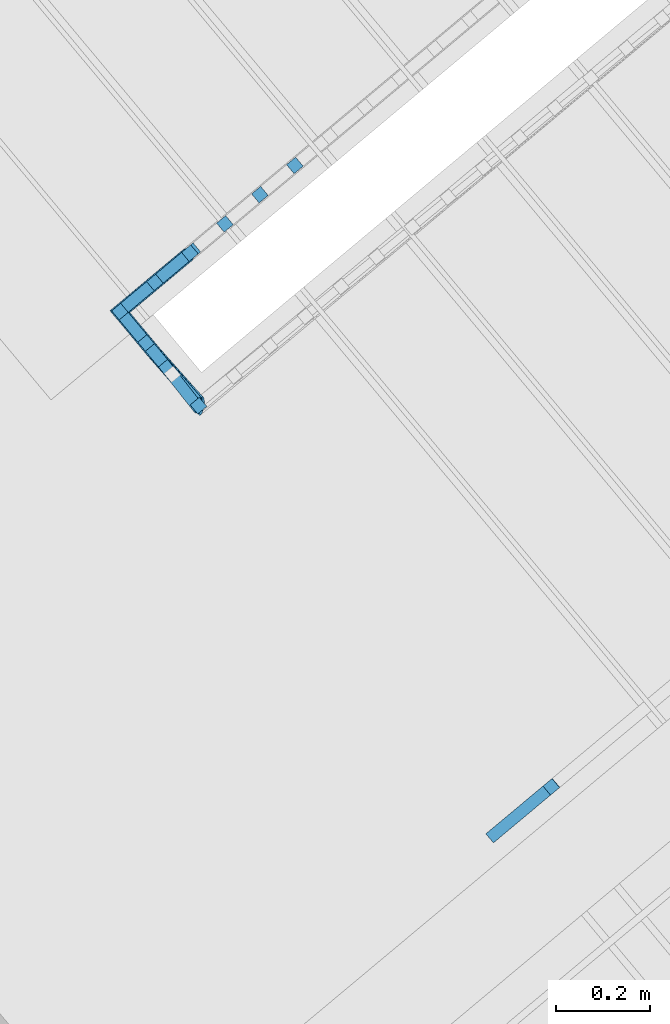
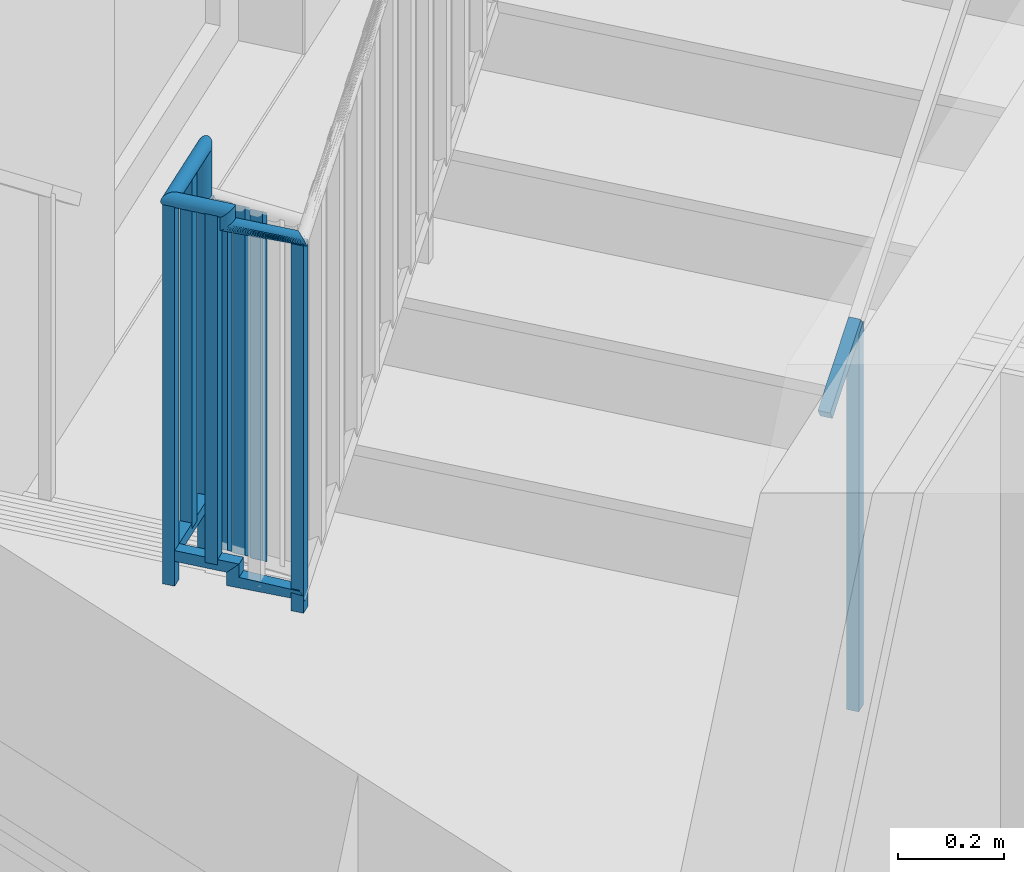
# One storey, part 43 of 58: 16 building element parts, 2 elements without a shape of their own.
"""IFC4 building model written with IfcOpenShell, lengths in metres."""

from ifc_helpers import new_model, entity, si_unit, converted_unit, derived_unit, direction, frame, origin_with_axes, place, context, subcontext, project, spatial, polygons, material, type_object, element, aggregate, save


model = new_model("IFC4")

# Units and contexts
model_context = context("Model", 3, precision=1e-05, world=origin_with_axes(), true_north=direction((0.0, 1.0)))
body_context = subcontext(model_context, "Body", "Model", "MODEL_VIEW")
ifc_project = project(units=[si_unit("LENGTHUNIT", "METRE"), si_unit("AREAUNIT", "SQUARE_METRE"), si_unit("VOLUMEUNIT", "CUBIC_METRE"), converted_unit("PLANEANGLEUNIT", "DEGREE", entity("IfcPlaneAngleMeasure", 0.0174532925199), si_unit("PLANEANGLEUNIT", "RADIAN"), dimensions=[0, 0, 0, 0, 0, 0, 0]), converted_unit("TIMEUNIT", "Year", entity("IfcTimeMeasure", 31556926.0), si_unit("TIMEUNIT", "SECOND"), dimensions=[0, 0, 1, 0, 0, 0, 0]), si_unit("MASSUNIT", "GRAM", prefix="KILO"), si_unit("THERMODYNAMICTEMPERATUREUNIT", "DEGREE_CELSIUS"), si_unit("LUMINOUSINTENSITYUNIT", "LUMEN"), si_unit("ENERGYUNIT", "JOULE", prefix="MEGA"), derived_unit("THERMALCONDUCTANCEUNIT", [(si_unit("POWERUNIT", "WATT"), 1), (si_unit("LENGTHUNIT", "METRE"), -1), (si_unit("THERMODYNAMICTEMPERATUREUNIT", "KELVIN"), -1)]), derived_unit("SPECIFICHEATCAPACITYUNIT", [(si_unit("ENERGYUNIT", "JOULE"), 1), (si_unit("MASSUNIT", "GRAM", prefix="KILO"), -1), (si_unit("THERMODYNAMICTEMPERATUREUNIT", "KELVIN"), -1)]), derived_unit("MASSDENSITYUNIT", [(si_unit("MASSUNIT", "GRAM", prefix="KILO"), 1), (si_unit("VOLUMEUNIT", "CUBIC_METRE"), -1)])], contexts=[model_context])

# Site, building, storey
site_placement = place(None, frame((-0.00153261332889, -0.00661245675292, 0.0), z_axis=(0.0, 0.0, 1.0), x_axis=(1.0, 0.0, 0.0)))
site = spatial("IfcSite", under=ifc_project, at=site_placement, Name="Site", CompositionType="ELEMENT")
building_placement = place(site_placement, origin_with_axes())
building = spatial("IfcBuilding", under=site, at=building_placement, Name="Building", CompositionType="ELEMENT")
storey_placement = place(building_placement, frame((0.0, 0.0, 5.7), z_axis=(0.0, 0.0, 1.0), x_axis=(1.0, 0.0, 0.0)))
storey = spatial("IfcBuildingStorey", under=building, at=storey_placement, Name="DG1", CompositionType="ELEMENT", Elevation=5.7)

# Railing, building element parts
railing_type = type_object("IfcRailingType", Name="Geländerart", PredefinedType="NOTDEFINED")
railing_1_placement = place(storey_placement, frame((-0.398547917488, 23.8355657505, 0.05), z_axis=(0.0, 0.0, 1.0), x_axis=(1.0, 0.0, 0.0)))
railing_1 = element("IfcRailing", 1, at=railing_1_placement, inside=storey, type_object=railing_type, Name="Geländer - 001", PredefinedType="NOTDEFINED")
ifc_material = material(Name="BEKLEIDUNG")
building_element_part_1_placement = place(railing_1_placement, origin_with_axes())
building_element_part_1 = element("IfcBuildingElementPart", 2, at=building_element_part_1_placement, material=ifc_material, Name="BEKLEIDUNG", PredefinedType="NOTDEFINED", context=body_context, shape_type="Tessellation", body=[
    polygons([(-1.83073465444, -1.44815547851, 1.77058823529), (-1.81470539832, -1.46734044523, 1.77058823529), (-1.81470539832, -1.46734044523, 2.65058823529), (-1.83073465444, -1.44815547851, 2.65058823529), (-1.81154968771, -1.43212622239, 1.77058823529), (-1.79552043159, -1.45131118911, 1.77058823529), (-1.79552043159, -1.45131118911, 2.65058823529), (-1.81154968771, -1.43212622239, 2.65058823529)], [[[1, 2, 3, 4]], [[1, 5, 6, 2]], [[2, 6, 7, 3]], [[4, 3, 7, 8]], [[5, 1, 4, 8]], [[6, 5, 8, 7]]], closed=True),
])
building_element_part_2_placement = place(railing_1_placement, origin_with_axes())
building_element_part_2 = element("IfcBuildingElementPart", 3, at=building_element_part_2_placement, material=ifc_material, Name="BEKLEIDUNG", PredefinedType="NOTDEFINED", context=body_context, shape_type="Tessellation", body=[
    polygons([(-1.65806995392, -1.30389217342, 1.7297425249), (-1.67725492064, -1.31992142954, 1.71753377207), (-1.67725492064, -1.31992142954, 1.82808823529), (-1.83073514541, -1.44815588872, 1.82808823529), (-1.83073514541, -1.44815588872, 1.85308823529), (-1.65806995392, -1.30389217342, 1.85308823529), (-1.6420406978, -1.32307714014, 1.7297425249), (-1.66122566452, -1.33910639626, 1.71753377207), (-1.66122566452, -1.33910639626, 1.82808823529), (-1.79551994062, -1.4513107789, 1.82808823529), (-1.79551994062, -1.4513107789, 1.85308823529), (-1.6420406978, -1.32307714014, 1.85308823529)], [[[1, 2, 3, 4, 5, 6]], [[1, 7, 8, 2]], [[2, 8, 9, 3]], [[3, 9, 10, 4]], [[5, 4, 10, 11]], [[12, 6, 5, 11]], [[7, 1, 6, 12]], [[8, 7, 12, 11, 10, 9]]], closed=True),
])
building_element_part_3_placement = place(railing_1_placement, origin_with_axes())
building_element_part_3 = element("IfcBuildingElementPart", 4, at=building_element_part_3_placement, material=ifc_material, Name="BEKLEIDUNG", PredefinedType="NOTDEFINED", context=body_context, shape_type="Tessellation", body=[
    polygons([(-1.66154123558, -1.34262781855, 2.54631289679), (-1.65968848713, -1.34078287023, 2.5475849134), (-1.65968848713, -1.34078287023, 2.65819295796), (-1.66154123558, -1.34262781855, 2.65558823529), (-1.66368620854, -1.34412301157, 2.54504088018), (-1.66605823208, -1.3452230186, 2.54380751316), (-1.66858523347, -1.34589441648, 2.54265027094), (-1.67119043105, -1.34611680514, 2.54160431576), (-1.67379466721, -1.3458834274, 2.54070142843), (-1.67631881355, -1.34520137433, 2.53996904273), (-1.67868617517, -1.34409136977, 2.53942941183), (-1.68082482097, -1.34258714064, 2.53909893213), (-1.68266976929, -1.34073439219, 2.53898764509), (-1.68416496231, -1.33858941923, 2.53909893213), (-1.68526496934, -1.33621739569, 2.53942941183), (-1.68593636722, -1.3336903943, 2.53996904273), (-1.68615875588, -1.33108519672, 2.54070142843), (-1.68592537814, -1.32848096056, 2.54160431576), (-1.68524332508, -1.32595681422, 2.54265027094), (-1.68413332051, -1.3235894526, 2.54380751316), (-1.68262909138, -1.3214508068, 2.54504088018), (-1.68077634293, -1.31960585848, 2.54631289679), (-1.67863136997, -1.31811066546, 2.5475849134), (-1.67625934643, -1.31701065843, 2.54881828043), (-1.67373234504, -1.31633926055, 2.54997552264), (-1.67112714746, -1.31611687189, 2.55102147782), (-1.6685229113, -1.31635024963, 2.55192436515), (-1.66599876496, -1.31703230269, 2.55265675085), (-1.66363140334, -1.31814230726, 2.55319638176), (-1.66149275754, -1.31964653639, 2.55352686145), (-1.65964780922, -1.32149928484, 2.55363814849), (-1.6581526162, -1.3236442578, 2.55352686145), (-1.65705260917, -1.32601628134, 2.55319638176), (-1.65638121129, -1.32854328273, 2.55265675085), (-1.65615882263, -1.33114848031, 2.55192436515), (-1.65639220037, -1.33375271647, 2.55102147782), (-1.65707425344, -1.33627686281, 2.54997552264), (-1.658184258, -1.33864422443, 2.54881828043), (-1.658184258, -1.33864422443, 2.66071853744), (-1.792319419, -1.45159751, 2.65819295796), (-1.79199842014, -1.45162626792, 2.65558823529), (-1.66368620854, -1.34412301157, 2.65298351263), (-1.66605823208, -1.3452230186, 2.65045793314), (-1.66858523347, -1.34589441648, 2.64808823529), (-1.67119043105, -1.34611680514, 2.64594642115), (-1.67379466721, -1.3458834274, 2.64409756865), (-1.67631881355, -1.34520137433, 2.64259785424), (-1.67868617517, -1.34409136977, 2.64149284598), (-1.68082482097, -1.34258714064, 2.640816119), (-1.68266976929, -1.34073439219, 2.64058823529), (-1.68416496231, -1.33858941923, 2.640816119), (-1.68526496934, -1.33621739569, 2.64149284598), (-1.68593636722, -1.3336903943, 2.64259785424), (-1.68615875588, -1.33108519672, 2.64409756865), (-1.68592537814, -1.32848096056, 2.64594642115), (-1.68524332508, -1.32595681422, 2.64808823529), (-1.68413332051, -1.3235894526, 2.65045793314), (-1.68262909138, -1.3214508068, 2.65298351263), (-1.68077634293, -1.31960585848, 2.65558823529), (-1.67863136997, -1.31811066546, 2.65819295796), (-1.67625934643, -1.31701065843, 2.66071853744), (-1.67373234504, -1.31633926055, 2.66308823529), (-1.67112714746, -1.31611687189, 2.66523004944), (-1.6685229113, -1.31635024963, 2.66707890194), (-1.66599876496, -1.31703230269, 2.66857861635), (-1.66363140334, -1.31814230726, 2.66968362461), (-1.66149275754, -1.31964653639, 2.67036035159), (-1.65964780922, -1.32149928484, 2.67058823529), (-1.6581526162, -1.3236442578, 2.67036035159), (-1.65705260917, -1.32601628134, 2.66968362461), (-1.65638121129, -1.32854328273, 2.66857861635), (-1.65615882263, -1.33114848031, 2.66707890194), (-1.65639220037, -1.33375271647, 2.66523004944), (-1.65707425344, -1.33627686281, 2.66308823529), (-1.79327266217, -1.45151211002, 2.66071853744), (-1.79482918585, -1.45137266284, 2.66308823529), (-1.79694169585, -1.45118340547, 2.66523004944), (-1.79954600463, -1.4509500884, 2.66707890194), (-1.80256298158, -1.45067980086, 2.66857861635), (-1.80590095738, -1.45038075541, 2.66968362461), (-1.80945850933, -1.45006203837, 2.67036035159), (-1.81312754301, -1.44973333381, 2.67058823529), (-1.8167965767, -1.44940462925, 2.67036035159), (-1.82035412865, -1.44908591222, 2.66968362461), (-1.82369210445, -1.44878686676, 2.66857861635), (-1.8267090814, -1.44851657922, 2.66707890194), (-1.82931339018, -1.44828326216, 2.66523004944), (-1.83142590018, -1.44809400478, 2.66308823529), (-1.83298242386, -1.4479545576, 2.66071853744), (-1.83393566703, -1.44786915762, 2.65819295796), (-1.83425666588, -1.4478403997, 2.65558823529), (-1.83393566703, -1.44786915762, 2.65298351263), (-1.83298242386, -1.4479545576, 2.65045793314), (-1.83142590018, -1.44809400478, 2.64808823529), (-1.82931339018, -1.44828326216, 2.64594642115), (-1.8267090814, -1.44851657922, 2.64409756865), (-1.82369210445, -1.44878686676, 2.64259785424), (-1.82035412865, -1.44908591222, 2.64149284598), (-1.8167965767, -1.44940462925, 2.640816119), (-1.81312754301, -1.44973333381, 2.64058823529), (-1.80945850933, -1.45006203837, 2.640816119), (-1.80590095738, -1.45038075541, 2.64149284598), (-1.80256298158, -1.45067980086, 2.64259785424), (-1.79954600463, -1.4509500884, 2.64409756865), (-1.79694169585, -1.45118340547, 2.64594642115), (-1.79482918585, -1.45137266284, 2.64808823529), (-1.79327266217, -1.45151211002, 2.65045793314), (-1.792319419, -1.45159751, 2.65298351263)], [[[1, 2, 3, 4]], [[1, 5, 6, 7, 8, 9, 10, 11, 12, 13, 14, 15, 16, 17, 18, 19, 20, 21, 22, 23, 24, 25, 26, 27, 28, 29, 30, 31, 32, 33, 34, 35, 36, 37, 38, 2]], [[2, 38, 39, 3]], [[4, 3, 40, 41]], [[5, 1, 4, 42]], [[6, 5, 42, 43]], [[7, 6, 43, 44]], [[8, 7, 44, 45]], [[9, 8, 45, 46]], [[10, 9, 46, 47]], [[11, 10, 47, 48]], [[12, 11, 48, 49]], [[13, 12, 49, 50]], [[14, 13, 50, 51]], [[15, 14, 51, 52]], [[16, 15, 52, 53]], [[17, 16, 53, 54]], [[18, 17, 54, 55]], [[19, 18, 55, 56]], [[20, 19, 56, 57]], [[21, 20, 57, 58]], [[22, 21, 58, 59]], [[23, 22, 59, 60]], [[24, 23, 60, 61]], [[25, 24, 61, 62]], [[26, 25, 62, 63]], [[27, 26, 63, 64]], [[28, 27, 64, 65]], [[29, 28, 65, 66]], [[30, 29, 66, 67]], [[31, 30, 67, 68]], [[32, 31, 68, 69]], [[33, 32, 69, 70]], [[34, 33, 70, 71]], [[35, 34, 71, 72]], [[36, 35, 72, 73]], [[37, 36, 73, 74]], [[38, 37, 74, 39]], [[3, 39, 75, 40]], [[41, 40, 75, 76, 77, 78, 79, 80, 81, 82, 83, 84, 85, 86, 87, 88, 89, 90, 91, 92, 93, 94, 95, 96, 97, 98, 99, 100, 101, 102, 103, 104, 105, 106, 107, 108]], [[42, 4, 41, 108]], [[43, 42, 108, 107]], [[44, 43, 107, 106]], [[45, 44, 106, 105]], [[46, 45, 105, 104]], [[47, 46, 104, 103]], [[48, 47, 103, 102]], [[49, 48, 102, 101]], [[50, 49, 101, 100]], [[51, 50, 100, 99]], [[52, 51, 99, 98]], [[53, 52, 98, 97]], [[54, 53, 97, 96]], [[55, 54, 96, 95]], [[56, 55, 95, 94]], [[57, 56, 94, 93]], [[58, 57, 93, 92]], [[59, 58, 92, 91]], [[60, 59, 91, 90]], [[61, 60, 90, 89]], [[62, 61, 89, 88]], [[63, 62, 88, 87]], [[64, 63, 87, 86]], [[65, 64, 86, 85]], [[66, 65, 85, 84]], [[67, 66, 84, 83]], [[68, 67, 83, 82]], [[69, 68, 82, 81]], [[70, 69, 81, 80]], [[71, 70, 80, 79]], [[72, 71, 79, 78]], [[73, 72, 78, 77]], [[74, 73, 77, 76]], [[39, 74, 76, 75]]], closed=True),
])
building_element_part_4_placement = place(railing_1_placement, origin_with_axes())
building_element_part_4 = element("IfcBuildingElementPart", 5, at=building_element_part_4_placement, material=ifc_material, Name="BEKLEIDUNG", PredefinedType="NOTDEFINED", context=body_context, shape_type="Tessellation", body=[
    polygons([(-1.64801867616, -1.66682135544, 1.77058823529), (-1.62883452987, -1.65079111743, 1.77058823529), (-1.62883452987, -1.65079111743, 2.61989887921), (-1.64801867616, -1.66682135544, 2.61989887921), (-1.66404891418, -1.64763720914, 1.77058823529), (-1.64486476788, -1.63160697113, 1.77058823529), (-1.64486476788, -1.63160697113, 2.61989887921), (-1.66404891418, -1.64763720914, 2.61989887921)], [[[1, 2, 3, 4]], [[1, 5, 6, 2]], [[2, 6, 7, 3]], [[4, 3, 7, 8]], [[5, 1, 4, 8]], [[6, 5, 8, 7]]], closed=True),
])
building_element_part_5_placement = place(railing_1_placement, origin_with_axes())
building_element_part_5 = element("IfcBuildingElementPart", 6, at=building_element_part_5_placement, material=ifc_material, Name="BEKLEIDUNG", PredefinedType="NOTDEFINED", context=body_context, shape_type="Tessellation", body=[
    polygons([(-1.73136158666, -1.5670809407, 1.85308823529), (-1.74739182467, -1.5478967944, 1.82808823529), (-1.74739182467, -1.5478967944, 1.79739887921), (-1.73136158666, -1.5670809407, 1.82239887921), (-1.71217744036, -1.55105070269, 1.85308823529), (-1.72820767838, -1.53186655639, 1.82808823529), (-1.72820767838, -1.53186655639, 1.79739887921), (-1.64445279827, -1.66621433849, 1.79779595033), (-1.71217744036, -1.55105070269, 1.82239887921), (-1.63893066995, -1.63383411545, 1.79779595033), (-1.6539527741, -1.66459421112, 1.82200180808), (-1.64843064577, -1.63221398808, 1.82200180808)], [[[1, 2, 3, 4]], [[1, 5, 6, 2]], [[2, 6, 7, 3]], [[4, 3, 8]], [[5, 1, 4, 9]], [[6, 5, 9, 7]], [[3, 7, 10]], [[3, 10, 8]], [[4, 8, 11]], [[9, 4, 11]], [[7, 9, 12]], [[7, 12, 10]], [[11, 8, 10, 12]], [[9, 11, 12]]], closed=True),
])
building_element_part_6_placement = place(railing_1_placement, origin_with_axes())
building_element_part_6 = element("IfcBuildingElementPart", 7, at=building_element_part_6_placement, material=ifc_material, Name="BEKLEIDUNG", PredefinedType="NOTDEFINED", context=body_context, shape_type="Tessellation", body=[
    polygons([(-1.72789228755, -1.52834511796, 2.65558823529), (-1.72639698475, -1.53049001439, 2.65819295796), (-1.72639698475, -1.53049001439, 2.62750360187), (-1.72789228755, -1.52834511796, 2.62489887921), (-1.72973733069, -1.52649246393, 2.65298351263), (-1.73187605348, -1.52498834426, 2.65045793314), (-1.7342434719, -1.52387846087, 2.64808823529), (-1.73676765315, -1.52319653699, 2.64594642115), (-1.73937190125, -1.52296329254, 2.64409756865), (-1.74197708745, -1.52318581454, 2.64259785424), (-1.74450405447, -1.52385734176, 2.64149284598), (-1.74687602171, -1.52495747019, 2.640816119), (-1.74902091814, -1.52645277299, 2.64058823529), (-1.75087357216, -1.52829781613, 2.640816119), (-1.75237769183, -1.53043653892, 2.64149284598), (-1.75348757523, -1.53280395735, 2.64259785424), (-1.7541694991, -1.53532813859, 2.64409756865), (-1.75440274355, -1.53793238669, 2.64594642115), (-1.75418022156, -1.54053757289, 2.64808823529), (-1.75350869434, -1.54306453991, 2.65045793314), (-1.7524085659, -1.54543650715, 2.65298351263), (-1.75091326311, -1.54758140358, 2.65558823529), (-1.74906821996, -1.5494340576, 2.65819295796), (-1.74692949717, -1.55093817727, 2.66071853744), (-1.74456207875, -1.55204806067, 2.66308823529), (-1.7420378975, -1.55272998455, 2.66523004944), (-1.7394336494, -1.55296322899, 2.66707890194), (-1.73682846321, -1.552740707, 2.66857861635), (-1.73430149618, -1.55206917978, 2.66968362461), (-1.73192952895, -1.55096905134, 2.67036035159), (-1.72978463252, -1.54947374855, 2.67058823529), (-1.72793197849, -1.5476287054, 2.67036035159), (-1.72642785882, -1.54548998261, 2.66968362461), (-1.72531797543, -1.54312256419, 2.66857861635), (-1.72463605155, -1.54059838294, 2.66707890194), (-1.7244028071, -1.53799413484, 2.66523004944), (-1.7246253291, -1.53538894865, 2.66308823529), (-1.72529685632, -1.53286198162, 2.66071853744), (-1.72529685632, -1.53286198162, 2.63002918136), (-1.63846858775, -1.63088446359, 2.62789734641), (-1.72973733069, -1.52649246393, 2.62229415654), (-1.73187605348, -1.52498834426, 2.61976857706), (-1.7342434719, -1.52387846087, 2.61739887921), (-1.73676765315, -1.52319653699, 2.61525706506), (-1.73937190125, -1.52296329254, 2.61340821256), (-1.74197708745, -1.52318581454, 2.61190849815), (-1.74450405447, -1.52385734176, 2.6108034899), (-1.74687602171, -1.52495747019, 2.61012676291), (-1.74902091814, -1.52645277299, 2.60989887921), (-1.75087357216, -1.52829781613, 2.61012676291), (-1.75237769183, -1.53043653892, 2.6108034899), (-1.75348757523, -1.53280395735, 2.61190849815), (-1.7541694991, -1.53532813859, 2.61340821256), (-1.75440274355, -1.53793238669, 2.61525706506), (-1.75418022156, -1.54053757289, 2.61739887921), (-1.75350869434, -1.54306453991, 2.61976857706), (-1.7524085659, -1.54543650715, 2.62229415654), (-1.75091326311, -1.54758140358, 2.62489887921), (-1.74906821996, -1.5494340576, 2.62750360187), (-1.74692949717, -1.55093817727, 2.63002918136), (-1.74456207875, -1.55204806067, 2.63239887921), (-1.7420378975, -1.55272998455, 2.63454069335), (-1.7394336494, -1.55296322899, 2.63638954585), (-1.73682846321, -1.552740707, 2.63788926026), (-1.73430149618, -1.55206917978, 2.63899426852), (-1.73192952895, -1.55096905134, 2.6396709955), (-1.72978463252, -1.54947374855, 2.63989887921), (-1.72793197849, -1.5476287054, 2.6396709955), (-1.72642785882, -1.54548998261, 2.63899426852), (-1.72531797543, -1.54312256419, 2.63788926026), (-1.72463605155, -1.54059838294, 2.63638954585), (-1.7244028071, -1.53799413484, 2.63454069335), (-1.7246253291, -1.53538894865, 2.63239887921), (-1.63957778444, -1.631597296, 2.63034269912), (-1.63742845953, -1.63075810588, 2.62537536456), (-1.63648900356, -1.63122206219, 2.62285338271), (-1.63567876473, -1.63226223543, 2.62040803), (-1.63502236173, -1.63384702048, 2.61811360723), (-1.63453973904, -1.63592826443, 2.61603982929), (-1.63424556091, -1.63844272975, 2.61424970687), (-1.63414876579, -1.64131401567, 2.61279763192), (-1.63425229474, -1.64445487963, 2.61172772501), (-1.63455300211, -1.64776988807, 2.61107249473), (-1.63504175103, -1.65115831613, 2.61085184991), (-1.63570369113, -1.65451720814, 2.61107249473), (-1.63651870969, -1.65774450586, 2.61172772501), (-1.63746204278, -1.66074214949, 2.61279763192), (-1.63850502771, -1.66341905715, 2.61424970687), (-1.63961597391, -1.66569389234, 2.61603982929), (-1.64076112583, -1.66749753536, 2.61811360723), (-1.64190568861, -1.66877518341, 2.62040803), (-1.64301488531, -1.66948801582, 2.62285338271), (-1.64405501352, -1.66961437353, 2.62537536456), (-1.64499446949, -1.66915041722, 2.62789734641), (-1.64580470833, -1.66811024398, 2.63034269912), (-1.64646111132, -1.66652545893, 2.63263712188), (-1.64694373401, -1.66444421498, 2.63471089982), (-1.64723791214, -1.66192974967, 2.63650102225), (-1.64733470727, -1.65905846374, 2.6379530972), (-1.64723117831, -1.65591759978, 2.6390230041), (-1.64693047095, -1.65260259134, 2.63967823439), (-1.64644172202, -1.64921416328, 2.63989887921), (-1.64577978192, -1.64585527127, 2.63967823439), (-1.64496476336, -1.64262797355, 2.6390230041), (-1.64402143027, -1.63963032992, 2.6379530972), (-1.64297844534, -1.63695342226, 2.63650102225), (-1.64186749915, -1.63467858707, 2.63471089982), (-1.64072234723, -1.63287494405, 2.63263712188)], [[[1, 2, 3, 4]], [[1, 5, 6, 7, 8, 9, 10, 11, 12, 13, 14, 15, 16, 17, 18, 19, 20, 21, 22, 23, 24, 25, 26, 27, 28, 29, 30, 31, 32, 33, 34, 35, 36, 37, 38, 2]], [[2, 38, 39, 3]], [[4, 3, 40]], [[5, 1, 4, 41]], [[6, 5, 41, 42]], [[7, 6, 42, 43]], [[8, 7, 43, 44]], [[9, 8, 44, 45]], [[10, 9, 45, 46]], [[11, 10, 46, 47]], [[12, 11, 47, 48]], [[13, 12, 48, 49]], [[14, 13, 49, 50]], [[15, 14, 50, 51]], [[16, 15, 51, 52]], [[17, 16, 52, 53]], [[18, 17, 53, 54]], [[19, 18, 54, 55]], [[20, 19, 55, 56]], [[21, 20, 56, 57]], [[22, 21, 57, 58]], [[23, 22, 58, 59]], [[24, 23, 59, 60]], [[25, 24, 60, 61]], [[26, 25, 61, 62]], [[27, 26, 62, 63]], [[28, 27, 63, 64]], [[29, 28, 64, 65]], [[30, 29, 65, 66]], [[31, 30, 66, 67]], [[32, 31, 67, 68]], [[33, 32, 68, 69]], [[34, 33, 69, 70]], [[35, 34, 70, 71]], [[36, 35, 71, 72]], [[37, 36, 72, 73]], [[38, 37, 73, 39]], [[3, 39, 74]], [[3, 74, 40]], [[4, 40, 75]], [[41, 4, 75]], [[42, 41, 76]], [[43, 42, 77]], [[44, 43, 78]], [[45, 44, 79]], [[46, 45, 80]], [[47, 46, 81]], [[48, 47, 82]], [[49, 48, 83]], [[50, 49, 84]], [[51, 50, 85]], [[52, 51, 86]], [[53, 52, 87]], [[54, 53, 88]], [[55, 54, 89]], [[56, 55, 90]], [[57, 56, 91]], [[58, 57, 92]], [[59, 58, 93]], [[60, 59, 94]], [[61, 60, 95]], [[62, 61, 96]], [[63, 62, 97]], [[64, 63, 98]], [[65, 64, 99]], [[66, 65, 100]], [[67, 66, 101]], [[68, 67, 102]], [[69, 68, 103]], [[70, 69, 104]], [[71, 70, 105]], [[72, 71, 106]], [[73, 72, 107]], [[39, 73, 108]], [[39, 108, 74]], [[75, 40, 74, 108, 107, 106, 105, 104, 103, 102, 101, 100, 99, 98, 97, 96, 95, 94, 93, 92, 91, 90, 89, 88, 87, 86, 85, 84, 83, 82, 81, 80, 79, 78, 77, 76]], [[41, 75, 76]], [[42, 76, 77]], [[43, 77, 78]], [[44, 78, 79]], [[45, 79, 80]], [[46, 80, 81]], [[47, 81, 82]], [[48, 82, 83]], [[49, 83, 84]], [[50, 84, 85]], [[51, 85, 86]], [[52, 86, 87]], [[53, 87, 88]], [[54, 88, 89]], [[55, 89, 90]], [[56, 90, 91]], [[57, 91, 92]], [[58, 92, 93]], [[59, 93, 94]], [[60, 94, 95]], [[61, 95, 96]], [[62, 96, 97]], [[63, 97, 98]], [[64, 98, 99]], [[65, 99, 100]], [[66, 100, 101]], [[67, 101, 102]], [[68, 102, 103]], [[69, 103, 104]], [[70, 104, 105]], [[71, 105, 106]], [[72, 106, 107]], [[73, 107, 108]]], closed=True),
])
building_element_part_7_placement = place(railing_1_placement, origin_with_axes())
building_element_part_7 = element("IfcBuildingElementPart", 8, at=building_element_part_7_placement, material=ifc_material, Name="BEKLEIDUNG", PredefinedType="NOTDEFINED", context=body_context, shape_type="Tessellation", body=[
    polygons([(-1.45967860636, -1.1381339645, 1.51232562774), (-1.44364935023, -1.15731893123, 1.51232562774), (-1.44364935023, -1.15731893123, 2.31982562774), (-1.45967860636, -1.1381339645, 2.31982562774), (-1.44049363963, -1.12210470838, 1.49283361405), (-1.42446438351, -1.1412896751, 1.49283361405), (-1.42446438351, -1.1412896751, 2.30033361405), (-1.44049363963, -1.12210470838, 2.30033361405)], [[[1, 2, 3, 4]], [[1, 5, 6, 2]], [[2, 6, 7, 3]], [[4, 3, 7, 8]], [[5, 1, 4, 8]], [[6, 5, 8, 7]]], closed=True),
])
building_element_part_8_placement = place(railing_1_placement, origin_with_axes())
building_element_part_8 = element("IfcBuildingElementPart", 9, at=building_element_part_8_placement, material=ifc_material, Name="BEKLEIDUNG", PredefinedType="NOTDEFINED", context=body_context, shape_type="Tessellation", body=[
    polygons([(-1.53388981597, -1.2001382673, 1.58772455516), (-1.51786055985, -1.21932323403, 1.58772455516), (-1.51786055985, -1.21932323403, 2.39522455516), (-1.53388981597, -1.2001382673, 2.39522455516), (-1.51470484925, -1.18410901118, 1.56823254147), (-1.49867559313, -1.20329397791, 1.56823254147), (-1.49867559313, -1.20329397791, 2.37573254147), (-1.51470484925, -1.18410901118, 2.37573254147)], [[[1, 2, 3, 4]], [[1, 5, 6, 2]], [[2, 6, 7, 3]], [[4, 3, 7, 8]], [[5, 1, 4, 8]], [[6, 5, 8, 7]]], closed=True),
])
building_element_part_9_placement = place(railing_1_placement, origin_with_axes())
building_element_part_9 = element("IfcBuildingElementPart", 10, at=building_element_part_9_placement, material=ifc_material, Name="BEKLEIDUNG", PredefinedType="NOTDEFINED", context=body_context, shape_type="Tessellation", body=[
    polygons([(-1.60810102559, -1.2621425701, 1.66312348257), (-1.59207176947, -1.28132753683, 1.66312348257), (-1.59207176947, -1.28132753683, 2.47062348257), (-1.60810102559, -1.2621425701, 2.47062348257), (-1.58891605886, -1.24611331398, 1.64363146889), (-1.57288680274, -1.26529828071, 1.64363146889), (-1.57288680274, -1.26529828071, 2.45113146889), (-1.58891605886, -1.24611331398, 2.45113146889)], [[[1, 2, 3, 4]], [[1, 5, 6, 2]], [[2, 6, 7, 3]], [[4, 3, 7, 8]], [[5, 1, 4, 8]], [[6, 5, 8, 7]]], closed=True),
])
building_element_part_10_placement = place(railing_1_placement, origin_with_axes())
building_element_part_10 = element("IfcBuildingElementPart", 11, at=building_element_part_10_placement, material=ifc_material, Name="BEKLEIDUNG", PredefinedType="NOTDEFINED", context=body_context, shape_type="Tessellation", body=[
    polygons([(-1.6823122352, -1.32414687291, 1.72363814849), (-1.66628297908, -1.34333183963, 1.72363814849), (-1.66628297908, -1.34333183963, 2.53113814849), (-1.6823122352, -1.32414687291, 2.53113814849), (-1.66312726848, -1.30811761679, 1.72363814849), (-1.64709801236, -1.32730258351, 1.72363814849), (-1.64709801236, -1.32730258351, 2.53113814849), (-1.66312726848, -1.30811761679, 2.53113814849)], [[[1, 2, 3, 4]], [[1, 5, 6, 2]], [[2, 6, 7, 3]], [[4, 3, 7, 8]], [[5, 1, 4, 8]], [[6, 5, 8, 7]]], closed=True),
])
building_element_part_11_placement = place(railing_1_placement, origin_with_axes())
building_element_part_11 = element("IfcBuildingElementPart", 12, at=building_element_part_11_placement, material=ifc_material, Name="BEKLEIDUNG", PredefinedType="NOTDEFINED", context=body_context, shape_type="Tessellation", body=[
    polygons([(-1.75652344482, -1.38615117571, 1.84058823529), (-1.7404941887, -1.40533614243, 1.84058823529), (-1.7404941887, -1.40533614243, 2.64808823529), (-1.75652344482, -1.38615117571, 2.64808823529), (-1.7373384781, -1.37012191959, 1.84058823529), (-1.72130922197, -1.38930688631, 1.84058823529), (-1.72130922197, -1.38930688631, 2.64808823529), (-1.7373384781, -1.37012191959, 2.64808823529)], [[[1, 2, 3, 4]], [[1, 5, 6, 2]], [[2, 6, 7, 3]], [[4, 3, 7, 8]], [[5, 1, 4, 8]], [[6, 5, 8, 7]]], closed=True),
])
building_element_part_12_placement = place(railing_1_placement, origin_with_axes())
building_element_part_12 = element("IfcBuildingElementPart", 13, at=building_element_part_12_placement, material=ifc_material, Name="BEKLEIDUNG", PredefinedType="NOTDEFINED", context=body_context, shape_type="Tessellation", body=[
    polygons([(-1.79199842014, -1.45162626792, 2.65558823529), (-1.792319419, -1.45159751, 2.65819295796), (-1.72639698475, -1.53049001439, 2.65819295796), (-1.72789228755, -1.52834511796, 2.65558823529), (-1.792319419, -1.45159751, 2.65298351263), (-1.79327266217, -1.45151211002, 2.65045793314), (-1.79482918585, -1.45137266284, 2.64808823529), (-1.79694169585, -1.45118340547, 2.64594642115), (-1.79954600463, -1.4509500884, 2.64409756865), (-1.80256298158, -1.45067980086, 2.64259785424), (-1.80590095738, -1.45038075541, 2.64149284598), (-1.80945850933, -1.45006203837, 2.640816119), (-1.81312754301, -1.44973333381, 2.64058823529), (-1.8167965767, -1.44940462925, 2.640816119), (-1.82035412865, -1.44908591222, 2.64149284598), (-1.82369210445, -1.44878686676, 2.64259785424), (-1.8267090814, -1.44851657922, 2.64409756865), (-1.82931339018, -1.44828326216, 2.64594642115), (-1.83142590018, -1.44809400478, 2.64808823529), (-1.83298242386, -1.4479545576, 2.65045793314), (-1.83393566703, -1.44786915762, 2.65298351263), (-1.83425666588, -1.4478403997, 2.65558823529), (-1.83393566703, -1.44786915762, 2.65819295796), (-1.83298242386, -1.4479545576, 2.66071853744), (-1.83142590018, -1.44809400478, 2.66308823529), (-1.82931339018, -1.44828326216, 2.66523004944), (-1.8267090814, -1.44851657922, 2.66707890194), (-1.82369210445, -1.44878686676, 2.66857861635), (-1.82035412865, -1.44908591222, 2.66968362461), (-1.8167965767, -1.44940462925, 2.67036035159), (-1.81312754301, -1.44973333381, 2.67058823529), (-1.80945850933, -1.45006203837, 2.67036035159), (-1.80590095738, -1.45038075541, 2.66968362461), (-1.80256298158, -1.45067980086, 2.66857861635), (-1.79954600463, -1.4509500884, 2.66707890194), (-1.79694169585, -1.45118340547, 2.66523004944), (-1.79482918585, -1.45137266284, 2.66308823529), (-1.79327266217, -1.45151211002, 2.66071853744), (-1.72529685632, -1.53286198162, 2.66071853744), (-1.7246253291, -1.53538894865, 2.66308823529), (-1.7244028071, -1.53799413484, 2.66523004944), (-1.72463605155, -1.54059838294, 2.66707890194), (-1.72531797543, -1.54312256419, 2.66857861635), (-1.72642785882, -1.54548998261, 2.66968362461), (-1.72793197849, -1.5476287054, 2.67036035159), (-1.72978463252, -1.54947374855, 2.67058823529), (-1.73192952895, -1.55096905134, 2.67036035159), (-1.73430149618, -1.55206917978, 2.66968362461), (-1.73682846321, -1.552740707, 2.66857861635), (-1.7394336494, -1.55296322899, 2.66707890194), (-1.7420378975, -1.55272998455, 2.66523004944), (-1.74456207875, -1.55204806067, 2.66308823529), (-1.74692949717, -1.55093817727, 2.66071853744), (-1.74906821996, -1.5494340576, 2.65819295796), (-1.75091326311, -1.54758140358, 2.65558823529), (-1.7524085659, -1.54543650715, 2.65298351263), (-1.75350869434, -1.54306453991, 2.65045793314), (-1.75418022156, -1.54053757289, 2.64808823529), (-1.75440274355, -1.53793238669, 2.64594642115), (-1.7541694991, -1.53532813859, 2.64409756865), (-1.75348757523, -1.53280395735, 2.64259785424), (-1.75237769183, -1.53043653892, 2.64149284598), (-1.75087357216, -1.52829781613, 2.640816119), (-1.74902091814, -1.52645277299, 2.64058823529), (-1.74687602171, -1.52495747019, 2.640816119), (-1.74450405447, -1.52385734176, 2.64149284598), (-1.74197708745, -1.52318581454, 2.64259785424), (-1.73937190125, -1.52296329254, 2.64409756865), (-1.73676765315, -1.52319653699, 2.64594642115), (-1.7342434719, -1.52387846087, 2.64808823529), (-1.73187605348, -1.52498834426, 2.65045793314), (-1.72973733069, -1.52649246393, 2.65298351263)], [[[1, 2, 3, 4]], [[1, 5, 6, 7, 8, 9, 10, 11, 12, 13, 14, 15, 16, 17, 18, 19, 20, 21, 22, 23, 24, 25, 26, 27, 28, 29, 30, 31, 32, 33, 34, 35, 36, 37, 38, 2]], [[2, 38, 39, 3]], [[4, 3, 39, 40, 41, 42, 43, 44, 45, 46, 47, 48, 49, 50, 51, 52, 53, 54, 55, 56, 57, 58, 59, 60, 61, 62, 63, 64, 65, 66, 67, 68, 69, 70, 71, 72]], [[5, 1, 4, 72]], [[6, 5, 72, 71]], [[7, 6, 71, 70]], [[8, 7, 70, 69]], [[9, 8, 69, 68]], [[10, 9, 68, 67]], [[11, 10, 67, 66]], [[12, 11, 66, 65]], [[13, 12, 65, 64]], [[14, 13, 64, 63]], [[15, 14, 63, 62]], [[16, 15, 62, 61]], [[17, 16, 61, 60]], [[18, 17, 60, 59]], [[19, 18, 59, 58]], [[20, 19, 58, 57]], [[21, 20, 57, 56]], [[22, 21, 56, 55]], [[23, 22, 55, 54]], [[24, 23, 54, 53]], [[25, 24, 53, 52]], [[26, 25, 52, 51]], [[27, 26, 51, 50]], [[28, 27, 50, 49]], [[29, 28, 49, 48]], [[30, 29, 48, 47]], [[31, 30, 47, 46]], [[32, 31, 46, 45]], [[33, 32, 45, 44]], [[34, 33, 44, 43]], [[35, 34, 43, 42]], [[36, 35, 42, 41]], [[37, 36, 41, 40]], [[38, 37, 40, 39]]], closed=True),
])
building_element_part_13_placement = place(railing_1_placement, origin_with_axes())
building_element_part_13 = element("IfcBuildingElementPart", 14, at=building_element_part_13_placement, material=ifc_material, Name="BEKLEIDUNG", PredefinedType="NOTDEFINED", context=body_context, shape_type="Tessellation", body=[
    polygons([(-1.83073514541, -1.44815588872, 1.85308823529), (-1.83073514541, -1.44815588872, 1.82808823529), (-1.74739182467, -1.5478967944, 1.82808823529), (-1.73136158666, -1.5670809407, 1.85308823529), (-1.79551994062, -1.4513107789, 1.85308823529), (-1.79551994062, -1.4513107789, 1.82808823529), (-1.72820767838, -1.53186655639, 1.82808823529), (-1.71217744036, -1.55105070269, 1.85308823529)], [[[1, 2, 3, 4]], [[1, 5, 6, 2]], [[2, 6, 7, 3]], [[4, 3, 7, 8]], [[5, 1, 4, 8]], [[6, 5, 8, 7]]], closed=True),
])
building_element_part_14_placement = place(railing_1_placement, origin_with_axes())
building_element_part_14 = element("IfcBuildingElementPart", 15, at=building_element_part_14_placement, material=ifc_material, Name="BEKLEIDUNG", PredefinedType="NOTDEFINED", context=body_context, shape_type="Tessellation", body=[
    polygons([(-1.75914255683, -1.53383413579, 1.84058823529), (-1.73995841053, -1.51780389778, 1.84058823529), (-1.73995841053, -1.51780389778, 2.64808823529), (-1.75914255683, -1.53383413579, 2.64808823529), (-1.77517279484, -1.51464998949, 1.84058823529), (-1.75598864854, -1.49861975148, 1.84058823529), (-1.75598864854, -1.49861975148, 2.64808823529), (-1.77517279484, -1.51464998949, 2.64808823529)], [[[1, 2, 3, 4]], [[1, 5, 6, 2]], [[2, 6, 7, 3]], [[4, 3, 7, 8]], [[5, 1, 4, 8]], [[6, 5, 8, 7]]], closed=True),
])
aggregate(railing_1, [building_element_part_1, building_element_part_2, building_element_part_3, building_element_part_4, building_element_part_5, building_element_part_6, building_element_part_7, building_element_part_8, building_element_part_9, building_element_part_10, building_element_part_11, building_element_part_12, building_element_part_13, building_element_part_14])

railing_2_placement = place(storey_placement, frame((-1.26480795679, 21.3396367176, 1.82058823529), z_axis=(0.0, 0.0, 1.0), x_axis=(1.0, 0.0, 0.0)))
railing_2 = element("IfcRailing", 16, at=railing_2_placement, inside=storey, type_object=railing_type, Name="Geländer - 002", PredefinedType="NOTDEFINED")
building_element_part_15_placement = place(railing_2_placement, origin_with_axes())
building_element_part_15 = element("IfcBuildingElementPart", 17, at=building_element_part_15_placement, material=ifc_material, Name="BEKLEIDUNG", PredefinedType="NOTDEFINED", context=body_context, shape_type="Tessellation", body=[
    polygons([(-0.0144532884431, 0.0367913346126, 0.0), (-0.0304835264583, 0.0559754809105, 0.0), (-0.0304835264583, 0.0559754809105, 0.887694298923), (-0.0144532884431, 0.0367913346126, 0.887694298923), (-0.033637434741, 0.0207610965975, 0.0), (-0.0496676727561, 0.0399452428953, 0.0), (-0.0496676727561, 0.0399452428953, 0.872305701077), (-0.033637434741, 0.0207610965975, 0.872305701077)], [[[1, 2, 3, 4]], [[1, 5, 6, 2]], [[2, 6, 7, 3]], [[4, 3, 7, 8]], [[5, 1, 4, 8]], [[6, 5, 8, 7]]], closed=True),
])
building_element_part_16_placement = place(railing_2_placement, origin_with_axes())
building_element_part_16 = element("IfcBuildingElementPart", 18, at=building_element_part_16_placement, material=ifc_material, Name="BEKLEIDUNG", PredefinedType="NOTDEFINED", context=body_context, shape_type="Tessellation", body=[
    polygons([(-0.0400755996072, 0.0479603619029, 0.9), (-0.0300193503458, 0.0563633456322, 0.878710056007), (-0.160716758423, -0.0528471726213, 0.773870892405), (-0.170773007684, -0.0612501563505, 0.795160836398), (-0.024045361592, 0.0287762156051, 0.9), (-0.0139891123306, 0.0371791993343, 0.878710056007), (-0.144686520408, -0.0720313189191, 0.773870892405), (-0.154742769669, -0.0804343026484, 0.795160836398)], [[[1, 2, 3, 4]], [[1, 5, 6, 2]], [[2, 6, 7, 3]], [[4, 3, 7, 8]], [[5, 1, 4, 8]], [[6, 5, 8, 7]]], closed=True),
])
aggregate(railing_2, [building_element_part_15, building_element_part_16])

save(model, "model.ifc")
